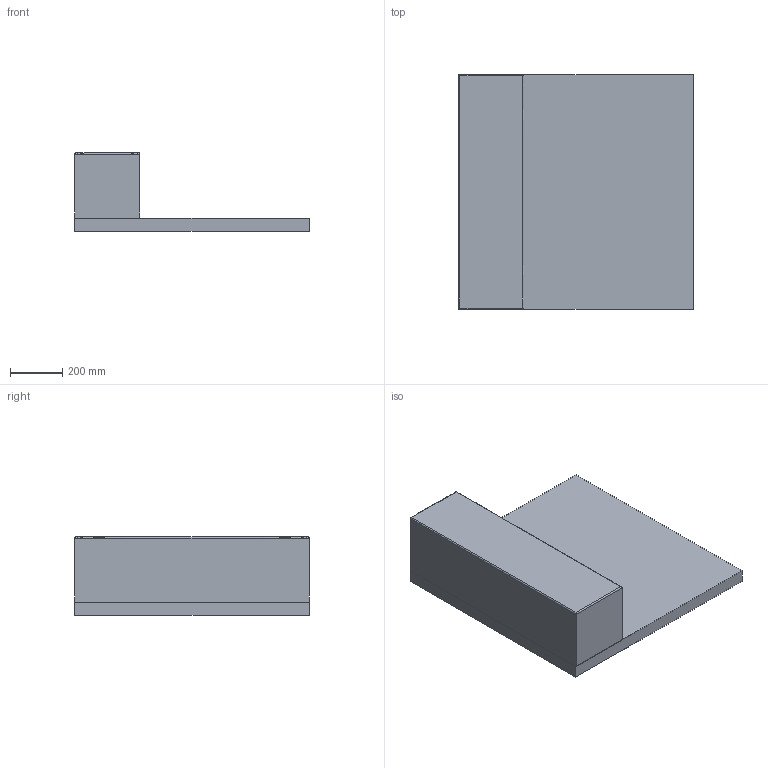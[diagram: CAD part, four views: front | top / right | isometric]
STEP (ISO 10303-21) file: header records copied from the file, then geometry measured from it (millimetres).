
FILE_DESCRIPTION(/* description */ (''),/* implementation_level */ '2;1');
FILE_NAME(/* name */ 'kinoshita_baobabland_k042',/* time_stamp */ '2026-04-02T14:30:51+09:00',/* author */ (''),/* organization */ (''),/* preprocessor_version */ 'ST-DEVELOPER v16.5',/* originating_system */ '',/* authorisation */ '');
FILE_SCHEMA (('AUTOMOTIVE_DESIGN'));
Length unit declared in the file: millimetre
Products named in the file (1): Document
Bounding box: 900 x 900 x 300 mm (x, y, z)
Volume: 96737703.3 mm3; surface area: 2820050 mm2
Topology: 2 solids, 2 shells, 16 faces, 32 edges, 20 vertices
Faces by surface type: plane 12, bspline 4
Entity records: 482 total; most frequent: CARTESIAN_POINT 222, ORIENTED_EDGE 64, EDGE_CURVE 32, B_SPLINE_CURVE_WITH_KNOTS 32, VERTEX_POINT 20, ADVANCED_FACE 16, FACE_OUTER_BOUND 16, EDGE_LOOP 16
